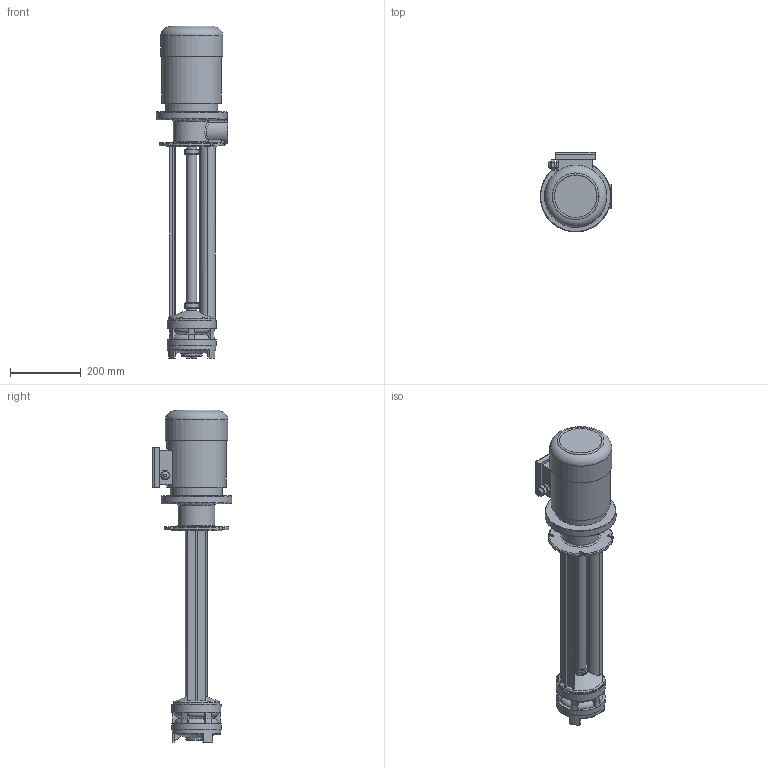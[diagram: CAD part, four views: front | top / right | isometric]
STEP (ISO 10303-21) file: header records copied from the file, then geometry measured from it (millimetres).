
FILE_DESCRIPTION(/* description */ ('Unknown'),/* implementation_level */ '2;1');
FILE_NAME(/* name */ 'gp2-600',/* time_stamp */ '2025-06-04T09:14:36+03:00',/* author */ ('Unknown'),/* organization */ ('Unknown'),/* preprocessor_version */ 'ST-DEVELOPER v16.7',/* originating_system */ 'DEX',/* authorisation */ $);
FILE_SCHEMA (('AUTOMOTIVE_DESIGN {1 0 10303 214 3 1 1}'));
Length unit declared in the file: millimetre
Products named in the file (1): gp2-600
Bounding box: 202 x 225 x 938.34 mm (x, y, z)
Volume: 10612895.5 mm3; surface area: 585065.9 mm2
Topology: 1 solids, 1 shells, 340 faces, 861 edges, 554 vertices
Faces by surface type: plane 122, bspline 84, cylinder 72, cone 33, torus 29
Full cylindrical faces by diameter (mm): 17 x1, 21.5 x1, 29 x3, 33 x2, 35 x2, 39 x2, 40.5 x2, 45 x1, 47 x1, 60 x1, 137 x1, 139 x2, 140 x1, 168.001 x1, 176 x1, 200 x1
Entity records: 12837 total; most frequent: CARTESIAN_POINT 5318, ORIENTED_EDGE 1608, DIRECTION 1359, EDGE_CURVE 804, VERTEX_POINT 546, AXIS2_PLACEMENT_3D 505, EDGE_LOOP 424, FACE_BOUND 424
